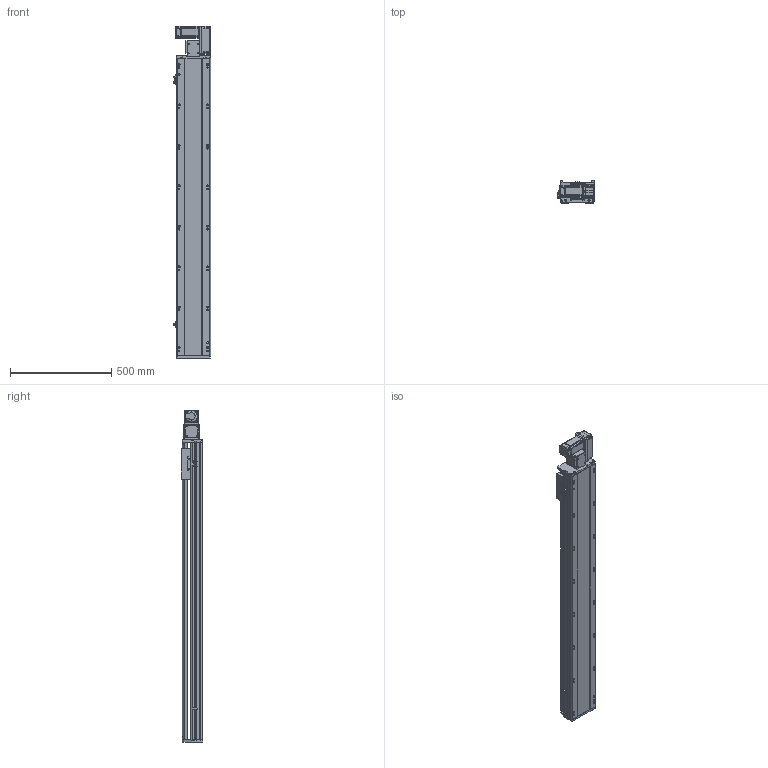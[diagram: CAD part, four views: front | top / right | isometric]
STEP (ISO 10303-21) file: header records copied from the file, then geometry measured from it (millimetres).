
FILE_DESCRIPTION (( 'STEP AP214' ), '1' );
FILE_NAME ('RTB17S-XX-1200-R-M40-C4.STEP', '2025-12-11T07:39:18', ( '' ), ( '' ), 'SwSTEP 2.0', 'SolidWorks 2018', '' );
FILE_SCHEMA (( 'AUTOMOTIVE_DESIGN' ));
Length unit declared in the file: millimetre
Products named in the file (14): RTB17-R-011菁釱^RTB17S-XX-XX-R-M40-C4; 400W侜督萇儂^RTB17S-XX-XX-R-M40-C4; RTB14-L-005P--轴承塑胶压盖^RTB17S-R-皮带座装配-400W_RTB17S-XX-XX-R-M40-C4; OMRON EE-SX672 传感器^RTB17S-XX-XX-R-M40-C4; RTB17S-XX-1200-R-M40-C4; RTB17S-L-004佪裝蹟譫蟀諉釱^RTB17S-XX-XX-R-M40-C4; RTH13-BL-012覜茼え俋离^RTB17S-XX-XX-R-M40-C4; RTB17S-L-001耜醱啣^RTB17S-XX-XX-R-M40-C4; RTB17S-L-007奻裔^RTB17S-XX-XX-R-M40-C4; RTB17S-R-々湍釱蚾饜-400W^RTB17S-XX-XX-R-M40-C4; RTB14-L-017P^RTB17S-R-々湍釱蚾饜-400W_RTB17S-XX-XX-R-M40-C4; RTB14-L-018P^RTB17S-R-々湍釱蚾饜-400W_RTB17S-XX-XX-R-M40-C4; RTB17S-L-014-T20--々湍釱^RTB17S-R-々湍釱蚾饜-400W_RTB17S-XX-XX-R-M40-C4; RTB14-L-008-M20--萇儂啣^RTB17S-R-々湍釱蚾饜-400W_RTB17S-XX-XX-R-M40-C4
Assembly tree (16 placements, depth 3):
  RTB17S-XX-1200-R-M40-C4
    RTB17-R-011菁釱^RTB17S-XX-XX-R-M40-C4
    RTB17S-L-007奻裔^RTB17S-XX-XX-R-M40-C4
    OMRON EE-SX672 传感器^RTB17S-XX-XX-R-M40-C4  x3
    RTB17S-L-001耜醱啣^RTB17S-XX-XX-R-M40-C4
    400W侜督萇儂^RTB17S-XX-XX-R-M40-C4
    RTB17S-L-004佪裝蹟譫蟀諉釱^RTB17S-XX-XX-R-M40-C4
    RTH13-BL-012覜茼え俋离^RTB17S-XX-XX-R-M40-C4
    RTB17S-R-々湍釱蚾饜-400W^RTB17S-XX-XX-R-M40-C4
      RTB17S-L-014-T20--々湍釱^RTB17S-R-々湍釱蚾饜-400W_RTB17S-XX-XX-R-M40-C4
      RTB14-L-005P--轴承塑胶压盖^RTB17S-R-皮带座装配-400W_RTB17S-XX-XX-R-M40-C4
      RTB14-L-008-M20--萇儂啣^RTB17S-R-々湍釱蚾饜-400W_RTB17S-XX-XX-R-M40-C4
      RTB14-L-017P^RTB17S-R-々湍釱蚾饜-400W_RTB17S-XX-XX-R-M40-C4  x2
      RTB14-L-018P^RTB17S-R-々湍釱蚾饜-400W_RTB17S-XX-XX-R-M40-C4
Bounding box: 183.5 x 108 x 1641 mm (x, y, z)
Volume: 14007968.5 mm3; surface area: 1675023.8 mm2
Topology: 15 solids, 15 shells, 2221 faces, 6141 edges, 4005 vertices
Faces by surface type: plane 1070, cylinder 703, bspline 301, cone 139, torus 8
Entity records: 63401 total; most frequent: CARTESIAN_POINT 17746, ORIENTED_EDGE 9126, DIRECTION 8486, EDGE_CURVE 4563, VERTEX_POINT 2993, AXIS2_PLACEMENT_3D 2923, LINE 2640, VECTOR 2640
